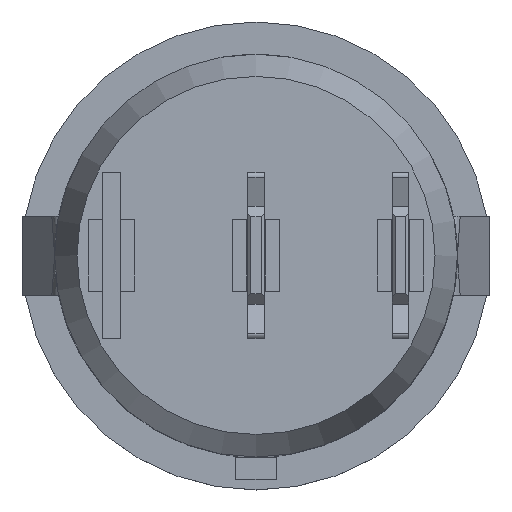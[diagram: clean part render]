
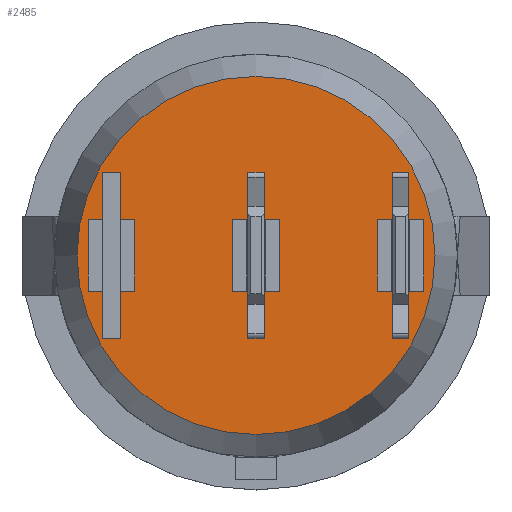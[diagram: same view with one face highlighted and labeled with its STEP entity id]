
A CAD part, top view. The second image highlights one B-rep face of the part: STEP entity #2485.
In plain terms, the highlighted planar face has unit normal (0, 0, 1).
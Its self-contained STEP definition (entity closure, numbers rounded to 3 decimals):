
#138=PLANE('',#2732);
#146=FACE_BOUND('',#425,.T.);
#147=FACE_BOUND('',#426,.T.);
#148=FACE_BOUND('',#427,.T.);
#149=FACE_BOUND('',#428,.T.);
#150=FACE_BOUND('',#429,.T.);
#151=FACE_BOUND('',#430,.T.);
#152=FACE_BOUND('',#431,.T.);
#284=FACE_OUTER_BOUND('',#424,.T.);
#424=EDGE_LOOP('',(#2290));
#425=EDGE_LOOP('',(#2291,#2292,#2293,#2294,#2295,#2296,#2297,#2298,#2299,
#2300,#2301,#2302));
#426=EDGE_LOOP('',(#2303,#2304,#2305,#2306));
#427=EDGE_LOOP('',(#2307,#2308,#2309,#2310));
#428=EDGE_LOOP('',(#2311,#2312,#2313,#2314));
#429=EDGE_LOOP('',(#2315,#2316,#2317,#2318));
#430=EDGE_LOOP('',(#2319,#2320,#2321,#2322));
#431=EDGE_LOOP('',(#2323,#2324,#2325,#2326));
#512=CIRCLE('',#2733,8.8);
#600=LINE('',#4212,#870);
#604=LINE('',#4221,#874);
#610=LINE('',#4233,#880);
#616=LINE('',#4244,#886);
#617=LINE('',#4245,#887);
#618=LINE('',#4248,#888);
#621=LINE('',#4253,#891);
#623=LINE('',#4259,#893);
#627=LINE('',#4267,#897);
#630=LINE('',#4273,#900);
#634=LINE('',#4279,#904);
#635=LINE('',#4280,#905);
#640=LINE('',#4301,#910);
#658=LINE('',#4360,#928);
#673=LINE('',#4403,#943);
#676=LINE('',#4410,#946);
#686=LINE('',#4430,#956);
#691=LINE('',#4439,#961);
#708=LINE('',#4480,#978);
#726=LINE('',#4516,#996);
#734=LINE('',#4538,#1004);
#738=LINE('',#4546,#1008);
#741=LINE('',#4552,#1011);
#744=LINE('',#4557,#1014);
#746=LINE('',#4563,#1016);
#750=LINE('',#4571,#1020);
#753=LINE('',#4577,#1023);
#756=LINE('',#4582,#1026);
#758=LINE('',#4588,#1028);
#762=LINE('',#4596,#1032);
#765=LINE('',#4602,#1035);
#768=LINE('',#4607,#1038);
#770=LINE('',#4613,#1040);
#774=LINE('',#4621,#1044);
#777=LINE('',#4627,#1047);
#780=LINE('',#4632,#1050);
#870=VECTOR('',#2992,10.);
#874=VECTOR('',#2998,10.);
#880=VECTOR('',#3008,10.);
#886=VECTOR('',#3016,10.);
#887=VECTOR('',#3017,10.);
#888=VECTOR('',#3020,10.);
#891=VECTOR('',#3025,10.);
#893=VECTOR('',#3031,10.);
#897=VECTOR('',#3037,10.);
#900=VECTOR('',#3042,10.);
#904=VECTOR('',#3048,10.);
#905=VECTOR('',#3049,10.);
#910=VECTOR('',#3070,10.);
#928=VECTOR('',#3120,10.);
#943=VECTOR('',#3155,10.);
#946=VECTOR('',#3162,10.);
#956=VECTOR('',#3182,10.);
#961=VECTOR('',#3191,10.);
#978=VECTOR('',#3234,10.);
#996=VECTOR('',#3268,10.);
#1004=VECTOR('',#3294,10.);
#1008=VECTOR('',#3300,10.);
#1011=VECTOR('',#3305,10.);
#1014=VECTOR('',#3310,10.);
#1016=VECTOR('',#3316,10.);
#1020=VECTOR('',#3322,10.);
#1023=VECTOR('',#3327,10.);
#1026=VECTOR('',#3332,10.);
#1028=VECTOR('',#3338,10.);
#1032=VECTOR('',#3344,10.);
#1035=VECTOR('',#3349,10.);
#1038=VECTOR('',#3354,10.);
#1040=VECTOR('',#3360,10.);
#1044=VECTOR('',#3366,10.);
#1047=VECTOR('',#3371,10.);
#1050=VECTOR('',#3376,10.);
#1139=VERTEX_POINT('',#4210);
#1140=VERTEX_POINT('',#4211);
#1143=VERTEX_POINT('',#4219);
#1144=VERTEX_POINT('',#4220);
#1147=VERTEX_POINT('',#4231);
#1148=VERTEX_POINT('',#4232);
#1152=VERTEX_POINT('',#4242);
#1153=VERTEX_POINT('',#4247);
#1155=VERTEX_POINT('',#4257);
#1156=VERTEX_POINT('',#4258);
#1159=VERTEX_POINT('',#4266);
#1161=VERTEX_POINT('',#4272);
#1169=VERTEX_POINT('',#4298);
#1170=VERTEX_POINT('',#4300);
#1194=VERTEX_POINT('',#4357);
#1195=VERTEX_POINT('',#4359);
#1213=VERTEX_POINT('',#4401);
#1215=VERTEX_POINT('',#4409);
#1220=VERTEX_POINT('',#4429);
#1222=VERTEX_POINT('',#4437);
#1247=VERTEX_POINT('',#4536);
#1248=VERTEX_POINT('',#4537);
#1251=VERTEX_POINT('',#4545);
#1253=VERTEX_POINT('',#4551);
#1255=VERTEX_POINT('',#4561);
#1256=VERTEX_POINT('',#4562);
#1259=VERTEX_POINT('',#4570);
#1261=VERTEX_POINT('',#4576);
#1263=VERTEX_POINT('',#4586);
#1264=VERTEX_POINT('',#4587);
#1267=VERTEX_POINT('',#4595);
#1269=VERTEX_POINT('',#4601);
#1271=VERTEX_POINT('',#4611);
#1272=VERTEX_POINT('',#4612);
#1275=VERTEX_POINT('',#4620);
#1277=VERTEX_POINT('',#4626);
#1280=VERTEX_POINT('',#4640);
#1418=EDGE_CURVE('',#1139,#1140,#600,.T.);
#1422=EDGE_CURVE('',#1143,#1144,#604,.T.);
#1428=EDGE_CURVE('',#1147,#1148,#610,.T.);
#1434=EDGE_CURVE('',#1144,#1152,#616,.T.);
#1435=EDGE_CURVE('',#1148,#1139,#617,.T.);
#1436=EDGE_CURVE('',#1152,#1153,#618,.T.);
#1439=EDGE_CURVE('',#1153,#1147,#621,.T.);
#1441=EDGE_CURVE('',#1155,#1156,#623,.T.);
#1445=EDGE_CURVE('',#1156,#1159,#627,.T.);
#1448=EDGE_CURVE('',#1159,#1161,#630,.T.);
#1452=EDGE_CURVE('',#1140,#1155,#634,.T.);
#1453=EDGE_CURVE('',#1161,#1143,#635,.T.);
#1462=EDGE_CURVE('',#1170,#1169,#640,.T.);
#1491=EDGE_CURVE('',#1195,#1194,#658,.T.);
#1513=EDGE_CURVE('',#1194,#1213,#673,.T.);
#1516=EDGE_CURVE('',#1215,#1195,#676,.T.);
#1526=EDGE_CURVE('',#1220,#1170,#686,.T.);
#1531=EDGE_CURVE('',#1169,#1222,#691,.T.);
#1552=EDGE_CURVE('',#1213,#1215,#708,.T.);
#1571=EDGE_CURVE('',#1222,#1220,#726,.T.);
#1580=EDGE_CURVE('',#1247,#1248,#734,.T.);
#1584=EDGE_CURVE('',#1248,#1251,#738,.T.);
#1587=EDGE_CURVE('',#1251,#1253,#741,.T.);
#1590=EDGE_CURVE('',#1253,#1247,#744,.T.);
#1592=EDGE_CURVE('',#1255,#1256,#746,.T.);
#1596=EDGE_CURVE('',#1256,#1259,#750,.T.);
#1599=EDGE_CURVE('',#1259,#1261,#753,.T.);
#1602=EDGE_CURVE('',#1261,#1255,#756,.T.);
#1604=EDGE_CURVE('',#1263,#1264,#758,.T.);
#1608=EDGE_CURVE('',#1264,#1267,#762,.T.);
#1611=EDGE_CURVE('',#1267,#1269,#765,.T.);
#1614=EDGE_CURVE('',#1269,#1263,#768,.T.);
#1616=EDGE_CURVE('',#1271,#1272,#770,.T.);
#1620=EDGE_CURVE('',#1272,#1275,#774,.T.);
#1623=EDGE_CURVE('',#1275,#1277,#777,.T.);
#1626=EDGE_CURVE('',#1277,#1271,#780,.T.);
#1629=EDGE_CURVE('',#1280,#1280,#512,.T.);
#2290=ORIENTED_EDGE('',*,*,#1629,.F.);
#2291=ORIENTED_EDGE('',*,*,#1452,.T.);
#2292=ORIENTED_EDGE('',*,*,#1441,.T.);
#2293=ORIENTED_EDGE('',*,*,#1445,.T.);
#2294=ORIENTED_EDGE('',*,*,#1448,.T.);
#2295=ORIENTED_EDGE('',*,*,#1453,.T.);
#2296=ORIENTED_EDGE('',*,*,#1422,.T.);
#2297=ORIENTED_EDGE('',*,*,#1434,.T.);
#2298=ORIENTED_EDGE('',*,*,#1436,.T.);
#2299=ORIENTED_EDGE('',*,*,#1439,.T.);
#2300=ORIENTED_EDGE('',*,*,#1428,.T.);
#2301=ORIENTED_EDGE('',*,*,#1435,.T.);
#2302=ORIENTED_EDGE('',*,*,#1418,.T.);
#2303=ORIENTED_EDGE('',*,*,#1552,.T.);
#2304=ORIENTED_EDGE('',*,*,#1516,.T.);
#2305=ORIENTED_EDGE('',*,*,#1491,.T.);
#2306=ORIENTED_EDGE('',*,*,#1513,.T.);
#2307=ORIENTED_EDGE('',*,*,#1462,.T.);
#2308=ORIENTED_EDGE('',*,*,#1531,.T.);
#2309=ORIENTED_EDGE('',*,*,#1571,.T.);
#2310=ORIENTED_EDGE('',*,*,#1526,.T.);
#2311=ORIENTED_EDGE('',*,*,#1580,.T.);
#2312=ORIENTED_EDGE('',*,*,#1584,.T.);
#2313=ORIENTED_EDGE('',*,*,#1587,.T.);
#2314=ORIENTED_EDGE('',*,*,#1590,.T.);
#2315=ORIENTED_EDGE('',*,*,#1592,.T.);
#2316=ORIENTED_EDGE('',*,*,#1596,.T.);
#2317=ORIENTED_EDGE('',*,*,#1599,.T.);
#2318=ORIENTED_EDGE('',*,*,#1602,.T.);
#2319=ORIENTED_EDGE('',*,*,#1604,.T.);
#2320=ORIENTED_EDGE('',*,*,#1608,.T.);
#2321=ORIENTED_EDGE('',*,*,#1611,.T.);
#2322=ORIENTED_EDGE('',*,*,#1614,.T.);
#2323=ORIENTED_EDGE('',*,*,#1616,.T.);
#2324=ORIENTED_EDGE('',*,*,#1620,.T.);
#2325=ORIENTED_EDGE('',*,*,#1623,.T.);
#2326=ORIENTED_EDGE('',*,*,#1626,.T.);
#2485=ADVANCED_FACE('',(#284,#146,#147,#148,#149,#150,#151,#152),#138,.F.);
#2732=AXIS2_PLACEMENT_3D('',#4639,#3386,#3387);
#2733=AXIS2_PLACEMENT_3D('',#4641,#3388,#3389);
#2992=DIRECTION('',(0.,-1.,0.));
#2998=DIRECTION('',(0.,1.,0.));
#3008=DIRECTION('',(0.,-1.,0.));
#3016=DIRECTION('',(1.,0.,0.));
#3017=DIRECTION('',(1.,0.,0.));
#3020=DIRECTION('',(0.,1.,0.));
#3025=DIRECTION('',(1.,0.,0.));
#3031=DIRECTION('',(0.,-1.,0.));
#3037=DIRECTION('',(-1.,0.,0.));
#3042=DIRECTION('',(0.,1.,0.));
#3048=DIRECTION('',(-1.,0.,0.));
#3049=DIRECTION('',(-1.,0.,0.));
#3070=DIRECTION('',(1.,0.,0.));
#3120=DIRECTION('',(-1.,0.,0.));
#3155=DIRECTION('',(0.,1.,0.));
#3162=DIRECTION('',(0.,-1.,0.));
#3182=DIRECTION('',(0.,1.,0.));
#3191=DIRECTION('',(0.,-1.,0.));
#3234=DIRECTION('',(1.,0.,0.));
#3268=DIRECTION('',(-1.,0.,0.));
#3294=DIRECTION('',(0.,-1.,0.));
#3300=DIRECTION('',(-1.,0.,0.));
#3305=DIRECTION('',(0.,1.,0.));
#3310=DIRECTION('',(1.,0.,0.));
#3316=DIRECTION('',(0.,1.,0.));
#3322=DIRECTION('',(1.,0.,0.));
#3327=DIRECTION('',(0.,-1.,0.));
#3332=DIRECTION('',(-1.,0.,0.));
#3338=DIRECTION('',(0.,-1.,0.));
#3344=DIRECTION('',(-1.,0.,0.));
#3349=DIRECTION('',(0.,1.,0.));
#3354=DIRECTION('',(1.,0.,0.));
#3360=DIRECTION('',(0.,1.,0.));
#3366=DIRECTION('',(1.,0.,0.));
#3371=DIRECTION('',(0.,-1.,0.));
#3376=DIRECTION('',(-1.,0.,0.));
#3386=DIRECTION('center_axis',(0.,0.,-1.));
#3387=DIRECTION('ref_axis',(-1.,0.,0.));
#3388=DIRECTION('center_axis',(0.,0.,-1.));
#3389=DIRECTION('ref_axis',(-1.,0.,0.));
#4210=CARTESIAN_POINT('',(4.083,7.55,0.));
#4211=CARTESIAN_POINT('',(4.083,6.65,0.));
#4212=CARTESIAN_POINT('',(4.083,3.775,0.));
#4219=CARTESIAN_POINT('',(-4.083,6.65,0.));
#4220=CARTESIAN_POINT('',(-4.083,7.55,0.));
#4221=CARTESIAN_POINT('',(-4.083,3.325,0.));
#4231=CARTESIAN_POINT('',(1.75,8.25,0.));
#4232=CARTESIAN_POINT('',(1.75,7.55,0.));
#4233=CARTESIAN_POINT('',(1.75,3.775,0.));
#4242=CARTESIAN_POINT('',(-1.75,7.55,0.));
#4244=CARTESIAN_POINT('',(-2.041,7.55,0.));
#4245=CARTESIAN_POINT('',(-2.041,7.55,0.));
#4247=CARTESIAN_POINT('',(-1.75,8.25,0.));
#4248=CARTESIAN_POINT('',(-1.75,4.125,0.));
#4253=CARTESIAN_POINT('',(0.875,8.25,0.));
#4257=CARTESIAN_POINT('',(1.75,6.65,0.));
#4258=CARTESIAN_POINT('',(1.75,5.95,0.));
#4259=CARTESIAN_POINT('',(1.75,2.975,0.));
#4266=CARTESIAN_POINT('',(-1.75,5.95,0.));
#4267=CARTESIAN_POINT('',(-0.875,5.95,0.));
#4272=CARTESIAN_POINT('',(-1.75,6.65,0.));
#4273=CARTESIAN_POINT('',(-1.75,3.325,0.));
#4279=CARTESIAN_POINT('',(2.041,6.65,0.));
#4280=CARTESIAN_POINT('',(2.041,6.65,0.));
#4298=CARTESIAN_POINT('',(3.2,0.4,0.));
#4300=CARTESIAN_POINT('',(-3.2,0.4,0.));
#4301=CARTESIAN_POINT('',(-1.625,0.4,0.));
#4357=CARTESIAN_POINT('',(-3.2,-7.5,0.));
#4359=CARTESIAN_POINT('',(3.2,-7.5,0.));
#4360=CARTESIAN_POINT('',(1.625,-7.5,0.));
#4401=CARTESIAN_POINT('',(-3.2,-6.7,0.));
#4403=CARTESIAN_POINT('',(-3.2,-3.75,0.));
#4409=CARTESIAN_POINT('',(3.2,-6.7,0.));
#4410=CARTESIAN_POINT('',(3.2,-3.75,0.));
#4429=CARTESIAN_POINT('',(-3.2,-0.4,0.));
#4430=CARTESIAN_POINT('',(-3.2,0.2,0.));
#4437=CARTESIAN_POINT('',(3.2,-0.4,0.));
#4439=CARTESIAN_POINT('',(3.2,0.2,0.));
#4480=CARTESIAN_POINT('',(1.2,-6.7,0.));
#4516=CARTESIAN_POINT('',(1.625,-0.4,0.));
#4536=CARTESIAN_POINT('',(1.75,-7.55,0.));
#4537=CARTESIAN_POINT('',(1.75,-8.25,0.));
#4538=CARTESIAN_POINT('',(1.75,-4.125,0.));
#4545=CARTESIAN_POINT('',(-1.75,-8.25,0.));
#4546=CARTESIAN_POINT('',(-0.875,-8.25,0.));
#4551=CARTESIAN_POINT('',(-1.75,-7.55,0.));
#4552=CARTESIAN_POINT('',(-1.75,-3.775,0.));
#4557=CARTESIAN_POINT('',(0.875,-7.55,0.));
#4561=CARTESIAN_POINT('',(-1.75,-1.15,0.));
#4562=CARTESIAN_POINT('',(-1.75,-0.45,0.));
#4563=CARTESIAN_POINT('',(-1.75,-0.225,0.));
#4570=CARTESIAN_POINT('',(1.75,-0.45,0.));
#4571=CARTESIAN_POINT('',(0.875,-0.45,0.));
#4576=CARTESIAN_POINT('',(1.75,-1.15,0.));
#4577=CARTESIAN_POINT('',(1.75,-0.575,0.));
#4582=CARTESIAN_POINT('',(-0.875,-1.15,0.));
#4586=CARTESIAN_POINT('',(1.75,-5.95,0.));
#4587=CARTESIAN_POINT('',(1.75,-6.65,0.));
#4588=CARTESIAN_POINT('',(1.75,-3.325,0.));
#4595=CARTESIAN_POINT('',(-1.75,-6.65,0.));
#4596=CARTESIAN_POINT('',(-0.875,-6.65,0.));
#4601=CARTESIAN_POINT('',(-1.75,-5.95,0.));
#4602=CARTESIAN_POINT('',(-1.75,-2.975,0.));
#4607=CARTESIAN_POINT('',(0.875,-5.95,0.));
#4611=CARTESIAN_POINT('',(-1.75,0.45,0.));
#4612=CARTESIAN_POINT('',(-1.75,1.15,0.));
#4613=CARTESIAN_POINT('',(-1.75,0.575,0.));
#4620=CARTESIAN_POINT('',(1.75,1.15,0.));
#4621=CARTESIAN_POINT('',(0.875,1.15,0.));
#4626=CARTESIAN_POINT('',(1.75,0.45,0.));
#4627=CARTESIAN_POINT('',(1.75,0.225,0.));
#4632=CARTESIAN_POINT('',(-0.875,0.45,0.));
#4639=CARTESIAN_POINT('Origin',(0.,0.,0.));
#4640=CARTESIAN_POINT('',(8.8,0.,0.));
#4641=CARTESIAN_POINT('Origin',(0.,0.,0.));
